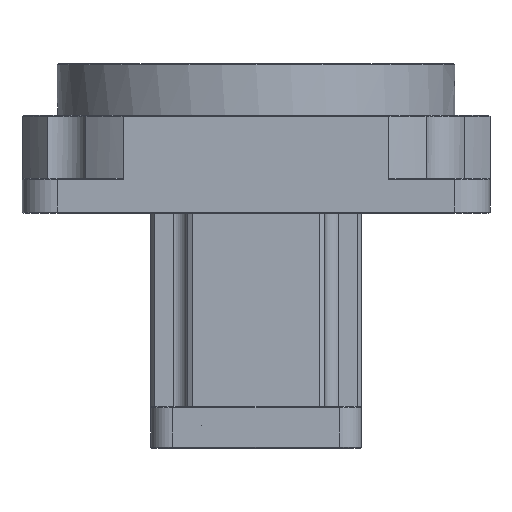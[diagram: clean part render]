
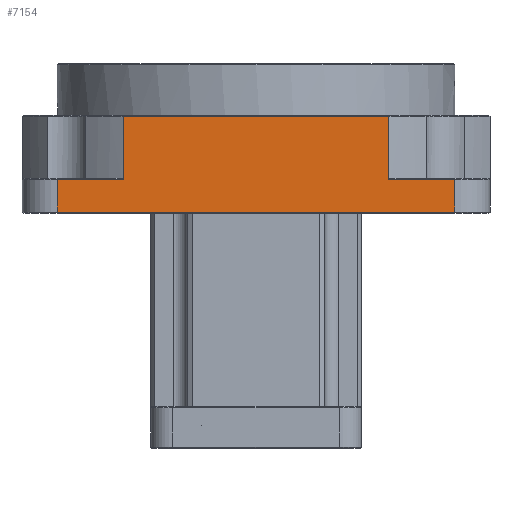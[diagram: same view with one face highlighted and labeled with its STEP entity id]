
A CAD part, left-side view. The second image highlights one B-rep face of the part: STEP entity #7154.
In plain terms, the highlighted planar face has unit normal (-1, 0, 0).
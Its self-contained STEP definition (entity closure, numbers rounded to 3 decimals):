
#3498=CARTESIAN_POINT('',(-100.,-56.789,41.5));
#3499=VERTEX_POINT('',#3498);
#3507=CARTESIAN_POINT('',(-100.,-56.789,14.5));
#3508=VERTEX_POINT('',#3507);
#3509=CARTESIAN_POINT('',(-100.,-56.789,41.5));
#3510=DIRECTION('',(0.0,0.0,-1.0));
#3511=VECTOR('',#3510,27.0);
#3512=LINE('',#3509,#3511);
#3513=EDGE_CURVE('',#3499,#3508,#3512,.T.);
#5338=CARTESIAN_POINT('',(-100.0,56.789,14.5));
#5339=VERTEX_POINT('',#5338);
#5347=CARTESIAN_POINT('',(-100.,56.789,41.5));
#5348=VERTEX_POINT('',#5347);
#5349=CARTESIAN_POINT('',(-100.,56.789,14.5));
#5350=DIRECTION('',(0.0,0.0,1.0));
#5351=VECTOR('',#5350,27.0);
#5352=LINE('',#5349,#5351);
#5353=EDGE_CURVE('',#5339,#5348,#5352,.T.);
#6446=CARTESIAN_POINT('',(-100.,85.0,0.5));
#6447=VERTEX_POINT('',#6446);
#6488=CARTESIAN_POINT('',(-100.,-85.,0.5));
#6489=VERTEX_POINT('',#6488);
#6496=CARTESIAN_POINT('',(-100.,-85.,0.5));
#6497=DIRECTION('',(0.0,1.0,0.0));
#6498=VECTOR('',#6497,170.);
#6499=LINE('',#6496,#6498);
#6500=EDGE_CURVE('',#6489,#6447,#6499,.T.);
#6751=CARTESIAN_POINT('',(-100.,-85.,14.5));
#6752=VERTEX_POINT('',#6751);
#6762=CARTESIAN_POINT('',(-100.,-85.,14.5));
#6763=DIRECTION('',(0.0,0.0,-1.0));
#6764=VECTOR('',#6763,14.0);
#6765=LINE('',#6762,#6764);
#6766=EDGE_CURVE('',#6752,#6489,#6765,.T.);
#6823=CARTESIAN_POINT('',(-100.,-56.789,14.5));
#6824=DIRECTION('',(0.0,-1.0,0.0));
#6825=VECTOR('',#6824,28.211);
#6826=LINE('',#6823,#6825);
#6827=EDGE_CURVE('',#3508,#6752,#6826,.T.);
#6841=CARTESIAN_POINT('',(-100.,85.0,14.5));
#6842=VERTEX_POINT('',#6841);
#6857=CARTESIAN_POINT('',(-100.,85.0,0.5));
#6858=DIRECTION('',(0.0,0.0,1.0));
#6859=VECTOR('',#6858,14.0);
#6860=LINE('',#6857,#6859);
#6861=EDGE_CURVE('',#6447,#6842,#6860,.T.);
#6879=CARTESIAN_POINT('',(-100.0,85.0,14.5));
#6880=DIRECTION('',(0.0,-1.0,0.0));
#6881=VECTOR('',#6880,28.211);
#6882=LINE('',#6879,#6881);
#6883=EDGE_CURVE('',#6842,#5339,#6882,.T.);
#7134=CARTESIAN_POINT('',(-100.,100.,0.0));
#7135=DIRECTION('',(-1.0,0.0,0.0));
#7136=DIRECTION('',(0.0,-1.0,0.0));
#7137=AXIS2_PLACEMENT_3D('',#7134,#7135,#7136);
#7138=PLANE('',#7137);
#7139=CARTESIAN_POINT('',(-100.0,56.789,41.5));
#7140=DIRECTION('',(0.0,-1.0,0.0));
#7141=VECTOR('',#7140,113.578);
#7142=LINE('',#7139,#7141);
#7143=EDGE_CURVE('',#5348,#3499,#7142,.T.);
#7144=ORIENTED_EDGE('',*,*,#7143,.F.);
#7145=ORIENTED_EDGE('',*,*,#5353,.F.);
#7146=ORIENTED_EDGE('',*,*,#6883,.F.);
#7147=ORIENTED_EDGE('',*,*,#6861,.F.);
#7148=ORIENTED_EDGE('',*,*,#6500,.F.);
#7149=ORIENTED_EDGE('',*,*,#6766,.F.);
#7150=ORIENTED_EDGE('',*,*,#6827,.F.);
#7151=ORIENTED_EDGE('',*,*,#3513,.F.);
#7152=EDGE_LOOP('',(#7144,#7145,#7146,#7147,#7148,#7149,#7150,#7151));
#7153=FACE_OUTER_BOUND('',#7152,.T.);
#7154=ADVANCED_FACE('',(#7153),#7138,.T.);
